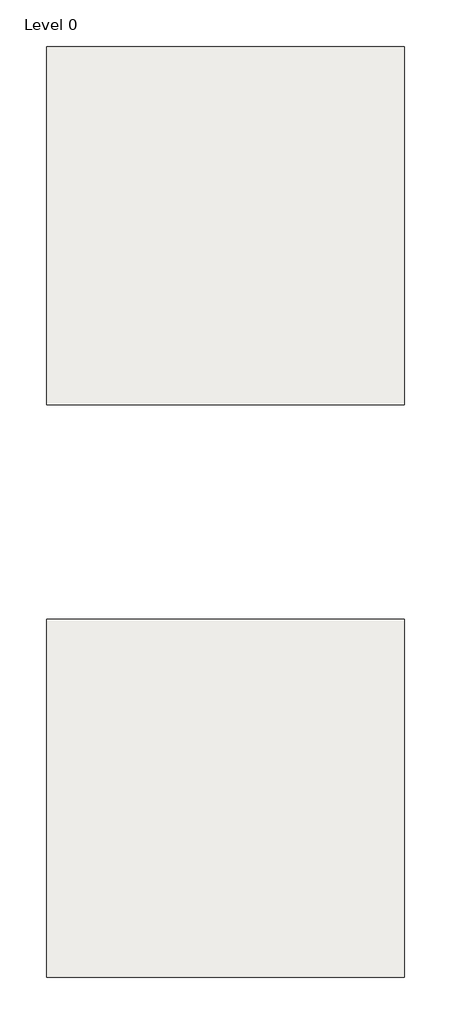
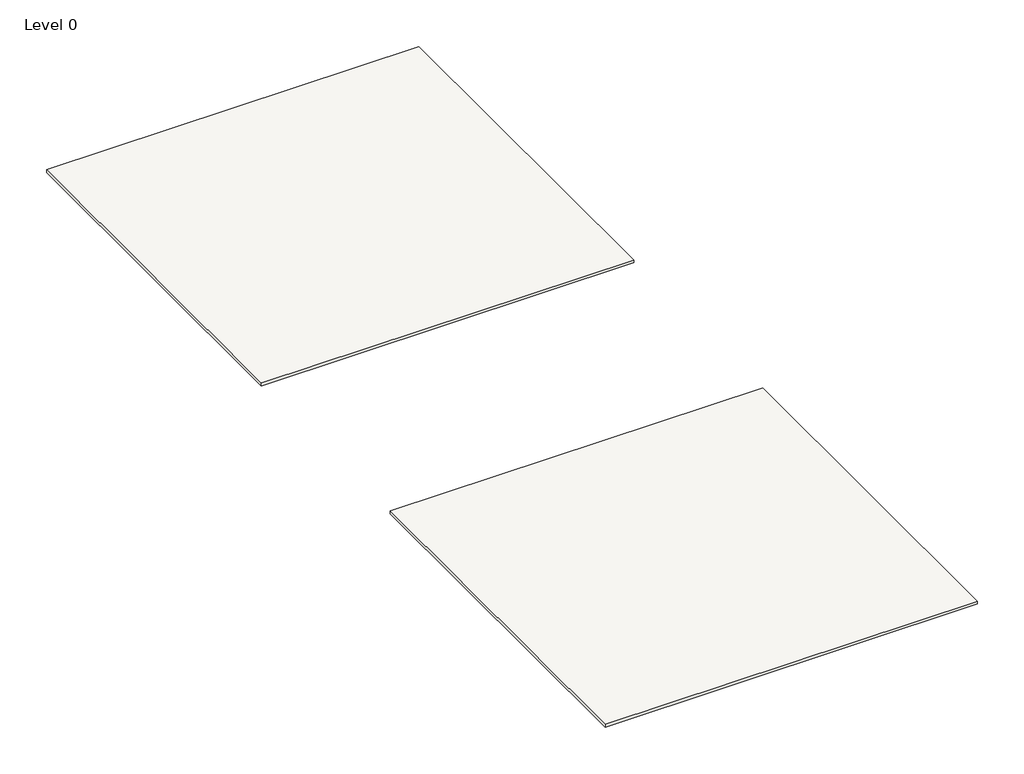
# One storey: 2 coverings.
"""IFC4 building model written with IfcOpenShell, lengths in millimetres."""

from ifc_helpers import new_model, si_unit, origin, origin_with_axes, place, context, project, spatial, polyline, outline, extrude, element, save

model = new_model("IFC4")

# Units and contexts
model_context = context("Model", 3, world=origin())
ifc_project = project(units=[si_unit("LENGTHUNIT", "METRE", prefix="MILLI")], contexts=[model_context])

# Site, building, storey
site = spatial("IfcSite", under=ifc_project)
building = spatial("IfcBuilding", under=site)
storey = spatial("IfcBuildingStorey", under=building, Name="Level 0", Elevation=0.0)

# Coverings
placement = place(None, origin())
element("IfcCovering", 1, ObjectType="NBS_IKOUK_RoofingTankingAndFlooringMasticAsphaltMA_IKOPermaphaltInvertedMasticAsphaltRoofingSystem-HeritageProjectFriendly_IKOPermaphaltBlock-4180000", at=placement, inside=storey, context=model_context, shape_type="SweptSolid", body=[
    extrude(outline(polyline([(1524.0, -4024.0), (1524.0, -1524.0), (4024.0, -1524.0), (4024.0, -4024.0), (1524.0, -4024.0)])), origin_with_axes(), (0.0, 0.0, 1.0), 20.0),
])
element("IfcCovering", 2, ObjectType="NBS_IKOUK_RoofingTankingAndFlooringMasticAsphaltMA_IKOPermaphaltInvertedMasticAsphaltRoofingSystem-HeritageProjectFriendly_IKOPermaphaltHotCharge-5180000", at=placement, inside=storey, context=model_context, shape_type="SweptSolid", body=[
    extrude(outline(polyline([(1524.0, -8024.0), (1524.0, -5524.0), (4024.0, -5524.0), (4024.0, -8024.0), (1524.0, -8024.0)])), origin_with_axes(), (0.0, 0.0, 1.0), 20.0),
])

save(model, "model.ifc")
